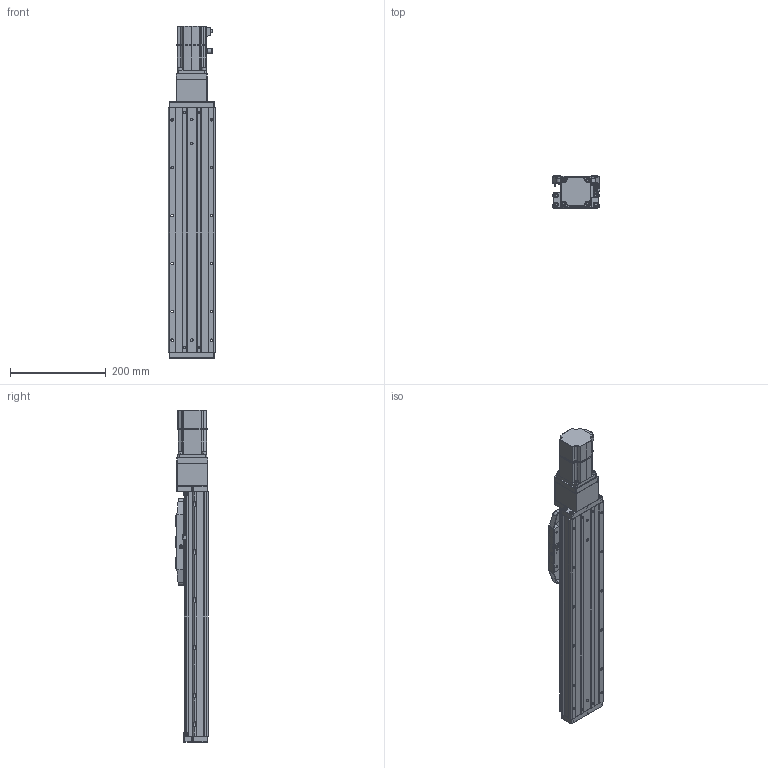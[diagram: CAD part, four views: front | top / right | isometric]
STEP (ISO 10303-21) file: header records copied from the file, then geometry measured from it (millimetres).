
FILE_DESCRIPTION (( 'STEP AP203' ), '1' );
FILE_NAME ('CTHA100-300-BC-M20-C4L.step', '2022-07-06T08:52:10', ( '微软用户' ), ( '微软中国' ), 'SwSTEP 2.0', 'SolidWorks 2020', '' );
FILE_SCHEMA (( 'CONFIG_CONTROL_DESIGN' ));
Length unit declared in the file: millimetre
Products named in the file (20): CTHA100-002; GB¨uT 70.2-M3¡Á5_M3¡Á6; CTHA60-016; CTHA100-031; EE_SX911P_R; _X2_4E0983F1_X0_200W_1; CTHA86-030; CTHA60-017; CTHA86-013; CTHA100-300-BC-M20-C4L; CTHA60-021; CTHA86-027; KTHA100-001_510; GBT77-2000 M3×3; CTHA86-006-1_CTHA86-006-2; KTHA100-004; GBT 70.1-M3℅6; GBT 70.3-M3℅6; KTHA100-005; GBT70.1 M5℅16
Assembly tree (63 placements, depth 2):
  CTHA100-300-BC-M20-C4L
    KTHA100-001_510
    KTHA100-004
    KTHA100-005
    GB¨uT 70.2-M3¡Á5_M3¡Á6  x10
    EE_SX911P_R  x3
    CTHA60-017  x3
    CTHA60-021  x2
    GBT77-2000 M3×3  x6
    GBT 70.1-M3℅6  x6
    GBT70.1 M5℅16  x14
    CTHA60-016  x2
    _X2_4E0983F1_X0_200W_1
    CTHA86-013
    CTHA86-027
    CTHA86-006-1_CTHA86-006-2
    GBT 70.3-M3℅6  x6
    CTHA100-002
    CTHA100-031
    CTHA86-030  x2
Bounding box: 98.82 x 68 x 692.5 mm (x, y, z)
Volume: 2579869.2 mm3; surface area: 470674.2 mm2
Topology: 65 solids, 65 shells, 2599 faces, 6214 edges, 3832 vertices
Faces by surface type: plane 1351, cylinder 673, cone 370, torus 112, bspline 69, sphere 24
Entity records: 44350 total; most frequent: CARTESIAN_POINT 8338, DIRECTION 6931, ORIENTED_EDGE 6700, EDGE_CURVE 3350, AXIS2_PLACEMENT_3D 2361, LINE 2209, VECTOR 2209, VERTEX_POINT 2110
